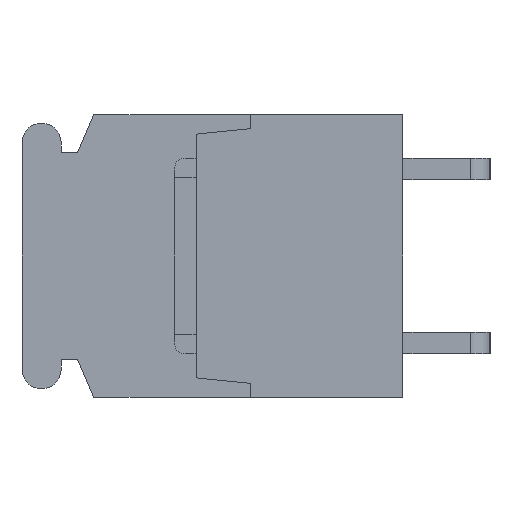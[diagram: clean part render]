
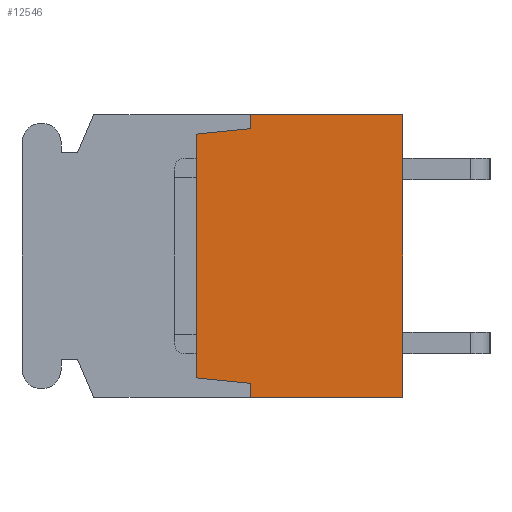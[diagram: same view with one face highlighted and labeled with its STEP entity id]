
A CAD part, left-side view. The second image highlights one B-rep face of the part: STEP entity #12546.
In plain terms, the highlighted planar face has unit normal (-1, 0, 0).
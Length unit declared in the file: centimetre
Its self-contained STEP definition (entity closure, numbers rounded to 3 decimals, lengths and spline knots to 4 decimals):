
#1115=VECTOR('',#14228,1.);
#1158=VECTOR('',#14287,1.);
#1407=VECTOR('',#14899,1.);
#1556=VECTOR('',#15250,1.);
#1557=VECTOR('',#15251,1.);
#1558=VECTOR('',#15252,1.);
#1559=VECTOR('',#15253,1.);
#1560=VECTOR('',#15254,1.);
#2541=LINE('',#17837,#1115);
#2584=LINE('',#17926,#1158);
#2833=LINE('',#18724,#1407);
#2982=LINE('',#19180,#1556);
#2983=LINE('',#19182,#1557);
#2984=LINE('',#19184,#1558);
#2985=LINE('',#19186,#1559);
#2986=LINE('',#19188,#1560);
#3942=VERTEX_POINT('',#17836);
#3943=VERTEX_POINT('',#17838);
#3959=VERTEX_POINT('',#17890);
#3976=VERTEX_POINT('',#17925);
#4344=VERTEX_POINT('',#19181);
#4345=VERTEX_POINT('',#19183);
#4346=VERTEX_POINT('',#19185);
#4347=VERTEX_POINT('',#19187);
#5604=EDGE_CURVE('',#3942,#3943,#2541,.T.);
#5649=EDGE_CURVE('',#3976,#3959,#2584,.T.);
#6007=EDGE_CURVE('',#3959,#3942,#2833,.T.);
#6214=EDGE_CURVE('',#4344,#3976,#2982,.T.);
#6215=EDGE_CURVE('',#4345,#4344,#2983,.T.);
#6216=EDGE_CURVE('',#4346,#4345,#2984,.T.);
#6217=EDGE_CURVE('',#4347,#4346,#2985,.T.);
#6218=EDGE_CURVE('',#3943,#4347,#2986,.T.);
#9432=ORIENTED_EDGE('',*,*,#6007,.F.);
#9433=ORIENTED_EDGE('',*,*,#5649,.F.);
#9434=ORIENTED_EDGE('',*,*,#6214,.F.);
#9435=ORIENTED_EDGE('',*,*,#6215,.F.);
#9436=ORIENTED_EDGE('',*,*,#6216,.F.);
#9437=ORIENTED_EDGE('',*,*,#6217,.F.);
#9438=ORIENTED_EDGE('',*,*,#6218,.F.);
#9439=ORIENTED_EDGE('',*,*,#5604,.F.);
#11032=EDGE_LOOP('',(#9432,#9433,#9434,#9435,#9436,#9437,#9438,#9439));
#11824=FACE_BOUND('',#11032,.T.);
#12546=ADVANCED_FACE('',(#11824),#13121,.F.);
#13121=PLANE('',#21324);
#14228=DIRECTION('',(0.,1.,0.));
#14287=DIRECTION('',(0.,-1.,0.));
#14899=DIRECTION('',(0.,0.,-1.));
#15249=DIRECTION('',(1.,0.,0.));
#15250=DIRECTION('',(0.,0.,1.));
#15251=DIRECTION('',(0.,-0.995,0.1));
#15252=DIRECTION('',(0.,0.,1.));
#15253=DIRECTION('',(0.,0.995,0.1));
#15254=DIRECTION('',(0.,0.,1.));
#17836=CARTESIAN_POINT('',(-1.84,0.,-0.65));
#17837=CARTESIAN_POINT('',(-1.84,0.,-0.65));
#17838=CARTESIAN_POINT('',(-1.84,0.7,-0.65));
#17890=CARTESIAN_POINT('',(-1.84,0.,0.65));
#17925=CARTESIAN_POINT('',(-1.84,0.7,0.65));
#17926=CARTESIAN_POINT('',(-1.84,0.7,0.65));
#18724=CARTESIAN_POINT('',(-1.84,0.,0.65));
#19179=CARTESIAN_POINT('',(-1.84,0.4626,0.));
#19180=CARTESIAN_POINT('',(-1.84,0.7,0.585));
#19181=CARTESIAN_POINT('',(-1.84,0.7,0.585));
#19182=CARTESIAN_POINT('',(-1.84,0.95,0.56));
#19183=CARTESIAN_POINT('',(-1.84,0.95,0.56));
#19184=CARTESIAN_POINT('',(-1.84,0.95,-0.56));
#19185=CARTESIAN_POINT('',(-1.84,0.95,-0.56));
#19186=CARTESIAN_POINT('',(-1.84,0.7,-0.585));
#19187=CARTESIAN_POINT('',(-1.84,0.7,-0.585));
#19188=CARTESIAN_POINT('',(-1.84,0.7,-0.65));
#21324=AXIS2_PLACEMENT_3D('',#19179,#15249,$);
